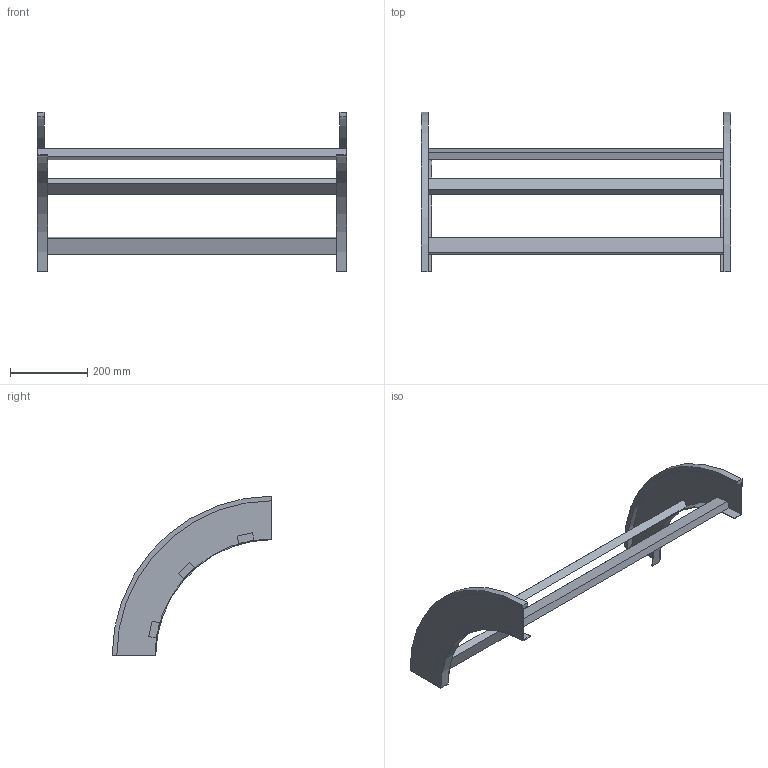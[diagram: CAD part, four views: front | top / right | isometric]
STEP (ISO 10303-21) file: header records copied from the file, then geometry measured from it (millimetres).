
FILE_DESCRIPTION (( 'STEP AP214' ), '1' );
FILE_NAME ('B2_33B3J800.step', '2025-02-21T15:04:25', ( '' ), ( '' ), 'SwSTEP 2.0', 'SolidWorks 2023', '' );
FILE_SCHEMA (( 'AUTOMOTIVE_DESIGN' ));
Length unit declared in the file: millimetre
Products named in the file (3): B2_LONGH.DISCESA_90°_H112.5_R300; B2_33B3J800; TRAVERSINO_800
Assembly tree (5 placements, depth 2):
  B2_33B3J800
    B2_LONGH.DISCESA_90°_H112.5_R300  x2
    TRAVERSINO_800  x3
Bounding box: 800 x 412.5 x 412.5 mm (x, y, z)
Volume: 2478574.3 mm3; surface area: 640117.9 mm2
Topology: 5 solids, 5 shells, 38 faces, 84 edges, 56 vertices
Faces by surface type: plane 30, cylinder 8
Entity records: 560 total; most frequent: DIRECTION 92, CARTESIAN_POINT 84, ORIENTED_EDGE 72, EDGE_CURVE 36, AXIS2_PLACEMENT_3D 32, VECTOR 28, LINE 28, VERTEX_POINT 24
